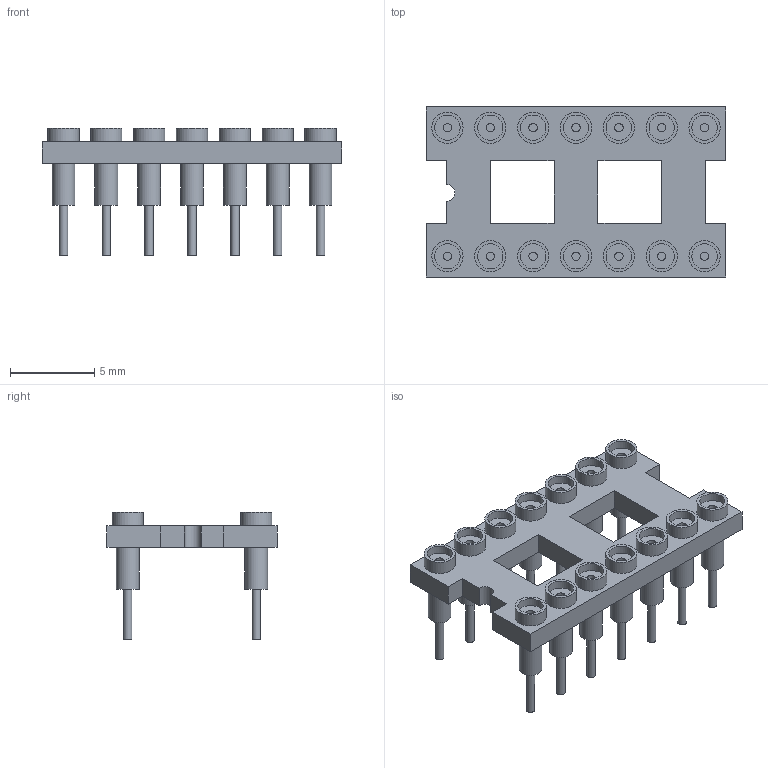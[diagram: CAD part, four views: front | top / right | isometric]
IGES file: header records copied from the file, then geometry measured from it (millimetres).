
Global section: file name: No Iges File Name specified; native system: AutoDesk Inventor R6.0; preprocessor: AutoDesk Inventor Iges Exporter R6.0; author: No Author specified; organization: No Organization specified; date: 20080103.175748; units: inch
Bounding box: 17.75 x 10.08 x 7.55 mm (x, y, z)
Surface area: 917.2 mm2 (no closed solid volume)
Topology: 0 solids, 0 shells, 178 faces, 538 edges, 454 vertices
Faces by surface type: plane 79, bspline 56, revolution 43
